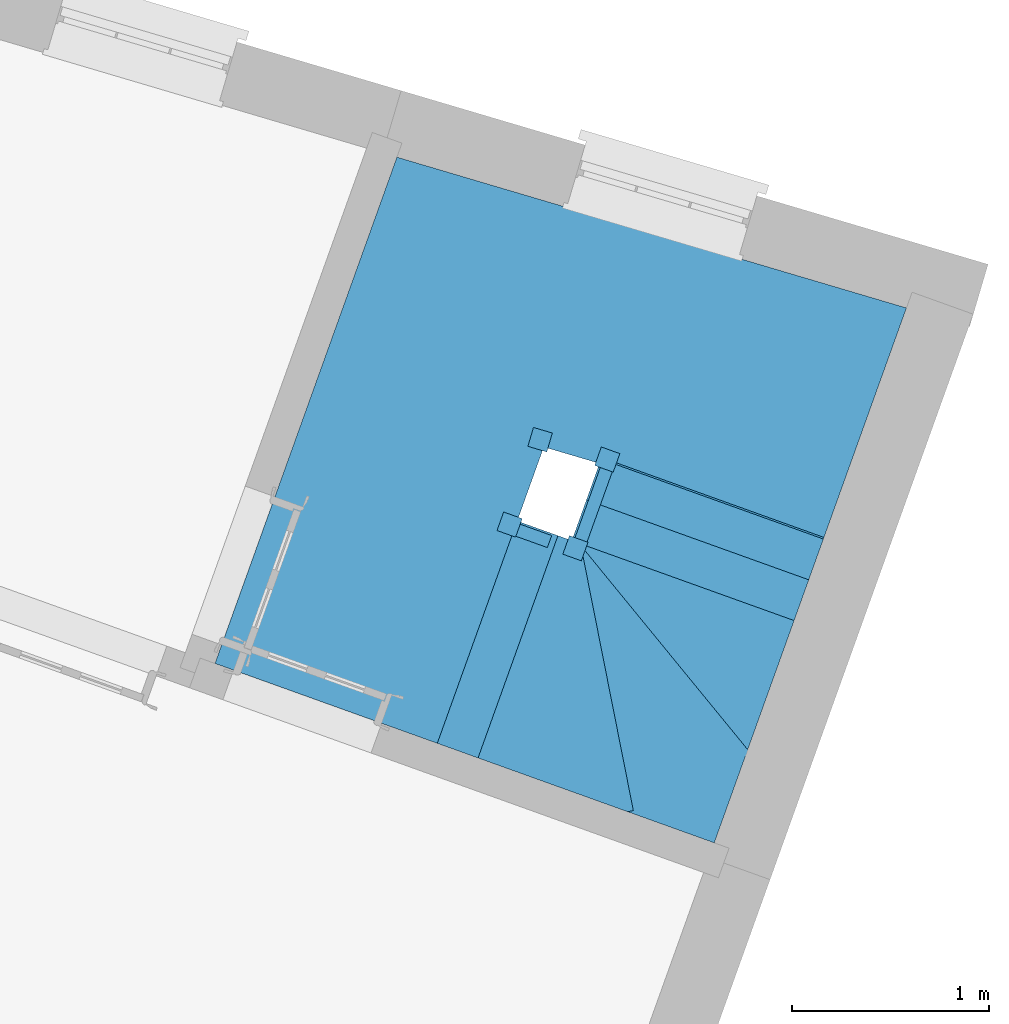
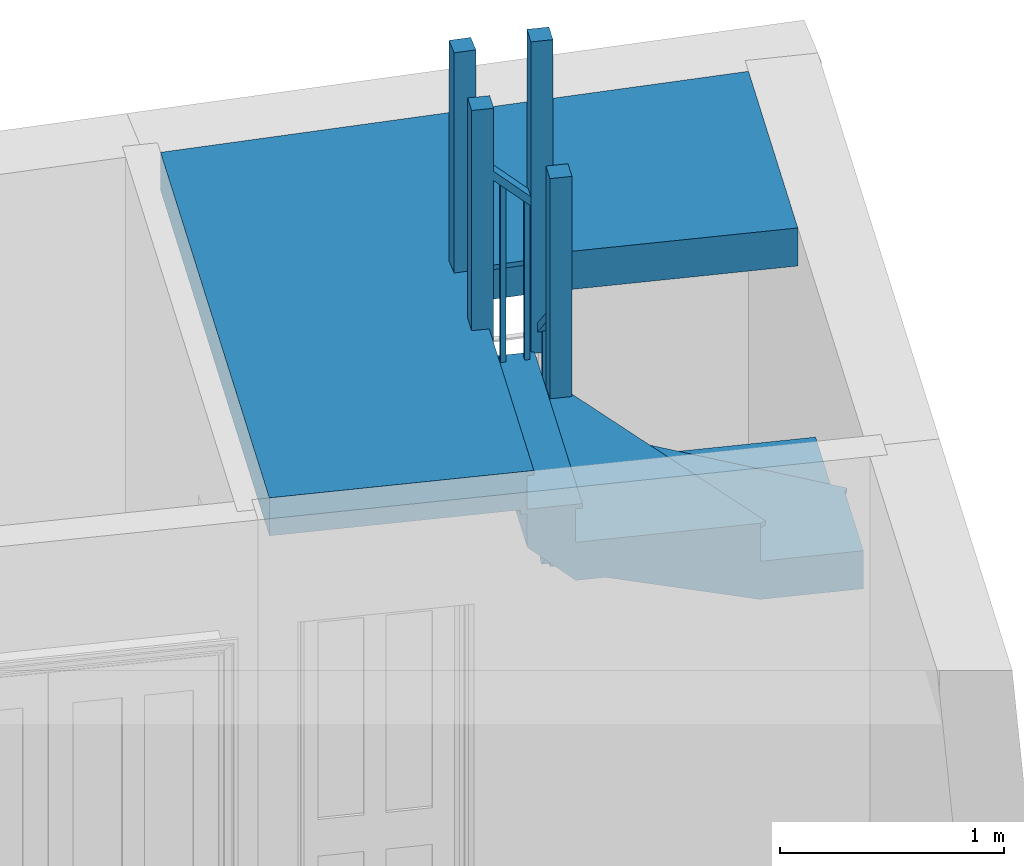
# One storey, part 4 of 4: 1 stair.
"""IFC4 building model written with IfcOpenShell, lengths in metres."""

from ifc_helpers import new_model, si_unit, frame, origin, origin_with_axes, place, context, subcontext, project, spatial, faceted_brep, element, save


model = new_model("IFC4")

# Units and contexts
model_context = context("Model", 3, world=origin_with_axes())
body_context = subcontext(model_context, "Body", "Model", "MODEL_VIEW")
ifc_project = project(units=[si_unit("PLANEANGLEUNIT", "RADIAN"), si_unit("MASSUNIT", "GRAM", prefix="KILO"), si_unit("FORCEUNIT", "NEWTON", prefix="KILO"), si_unit("LENGTHUNIT", "METRE"), si_unit("AREAUNIT", "SQUARE_METRE"), si_unit("VOLUMEUNIT", "CUBIC_METRE")], contexts=[model_context, model_context])

# Sites, building, storey
site_1_placement = place(None, origin_with_axes())
site_1 = spatial("IfcSite", under=ifc_project, at=site_1_placement, Name="Tamar")
site_2_placement = place(site_1_placement, origin_with_axes())
site_2 = spatial("IfcSite", under=site_1, at=site_2_placement, Name="Site plot-24", CompositionType="ELEMENT")
building_placement = place(None, origin_with_axes())
building = spatial("IfcBuilding", under=site_2, at=building_placement, Name="Building plot-24", CompositionType="ELEMENT")
storey_placement = place(None, frame((0.0, 0.0, 29.3), z_axis=(0.0, 0.0, 1.0), x_axis=(1.0, 0.0, 0.0)))
storey = spatial("IfcBuildingStorey", under=building, at=storey_placement, Name="plot-24 1", CompositionType="ELEMENT", Elevation=29.3)

# Stair
stair_placement = place(None, origin())
element("IfcStair", 1, at=stair_placement, inside=storey, Name="Stair", PredefinedType="NOTDEFINED", context=body_context, shape_type="Brep", body=[
    faceted_brep([(274.248224, 278.266553, 32.0), (273.147152, 278.662205, 32.0), (272.992165, 278.230887, 32.0), (274.093237, 277.835235, 32.0), (274.093237, 277.835235, 31.792308), (272.992165, 278.230887, 31.792308), (273.147152, 278.662205, 31.792308), (274.248224, 278.266553, 31.792308)], [[[0, 1, 2, 3]], [[4, 5, 6, 7]], [[7, 6, 1, 0]], [[6, 5, 2, 1]], [[5, 4, 3, 2]], [[4, 7, 0, 3]]]),
    faceted_brep([(274.12147, 277.82509, 31.975), (274.12147, 277.82509, 32.0), (274.093237, 277.835235, 31.975), (274.276456, 278.256408, 32.0), (274.276456, 278.256408, 31.975), (274.248224, 278.266553, 31.975), (274.093237, 277.835235, 32.0), (274.248224, 278.266553, 32.0)], [[[0, 1, 2]], [[3, 4, 5]], [[2, 1, 6]], [[3, 5, 7]], [[6, 1, 3, 7]], [[2, 6, 7, 5]], [[0, 2, 5, 4]], [[1, 0, 4, 3]]]),
    faceted_brep([(274.123383, 277.771272, 33.2), (274.157199, 277.865381, 33.2), (274.063091, 277.899197, 33.2), (274.029274, 277.805089, 33.2), (274.029274, 277.805089, 32.0), (274.063091, 277.899197, 32.0), (274.157199, 277.865381, 32.0), (274.123383, 277.771272, 32.0)], [[[0, 1, 2, 3]], [[4, 5, 6, 7]], [[7, 6, 1, 0]], [[6, 5, 2, 1]], [[5, 4, 3, 2]], [[4, 7, 0, 3]]]),
    faceted_brep([(274.093237, 277.835235, 32.0), (272.992165, 278.230887, 32.0), (272.596513, 277.129815, 32.0), (273.697585, 276.734163, 32.0), (273.697585, 276.734163, 31.792308), (272.596513, 277.129815, 31.792308), (272.992165, 278.230887, 31.792308), (274.093237, 277.835235, 31.792308)], [[[0, 1, 2, 3]], [[4, 5, 6, 7]], [[7, 6, 1, 0]], [[6, 5, 2, 1]], [[5, 4, 3, 2]], [[4, 7, 0, 3]]]),
    faceted_brep([(273.697585, 276.734163, 31.975), (273.725818, 276.724018, 31.975), (273.697585, 276.734163, 32.0), (274.12147, 277.82509, 31.975), (274.093237, 277.835235, 31.975), (274.093237, 277.835235, 32.0), (273.725818, 276.724018, 32.0), (274.12147, 277.82509, 32.0)], [[[0, 1, 2]], [[3, 4, 5]], [[1, 6, 2]], [[7, 3, 5]], [[2, 6, 7, 5]], [[0, 2, 5, 4]], [[1, 0, 4, 3]], [[6, 1, 3, 7]]]),
    faceted_brep([(274.123383, 277.771272, 32.0), (274.157199, 277.865381, 32.0), (274.063091, 277.899197, 32.0), (274.029274, 277.805089, 32.0), (274.029274, 277.805089, 31.5), (274.063091, 277.899197, 31.5), (274.157199, 277.865381, 31.5), (274.123383, 277.771272, 31.5)], [[[0, 1, 2, 3]], [[4, 5, 6, 7]], [[7, 6, 1, 0]], [[6, 5, 2, 1]], [[5, 4, 3, 2]], [[4, 7, 0, 3]]]),
    faceted_brep([(274.093237, 277.835235, 31.792308), (273.697585, 276.734163, 31.792308), (273.904624, 276.659767, 31.792308), (274.300276, 277.760839, 31.792308), (274.300276, 277.760839, 31.376923), (273.904624, 276.659767, 31.376923), (273.697585, 276.734163, 31.584615), (274.093237, 277.835235, 31.584615)], [[[0, 1, 2, 3]], [[4, 5, 6, 7]], [[7, 6, 1, 0]], [[1, 6, 5, 2]], [[5, 4, 3, 2]], [[3, 4, 7, 0]]]),
    faceted_brep([(273.904624, 276.659767, 31.767308), (273.932857, 276.649622, 31.767308), (273.904624, 276.659767, 31.792308), (273.669352, 276.744308, 31.767308), (273.697585, 276.734163, 31.767308), (273.697585, 276.734163, 31.792308), (273.932857, 276.649622, 31.792308), (273.669352, 276.744308, 31.792308), (274.338654, 277.778926, 31.792308), (274.300276, 277.760839, 31.792308), (274.300276, 277.760839, 31.767308), (274.338654, 277.778926, 31.767308), (274.075149, 277.873612, 31.792308), (274.093237, 277.835235, 31.792308), (274.093237, 277.835235, 31.767308), (274.075149, 277.873612, 31.767308)], [[[0, 1, 2]], [[3, 4, 5]], [[1, 6, 2]], [[7, 3, 5]], [[2, 6, 8, 9]], [[0, 2, 9, 10]], [[1, 0, 10, 11]], [[6, 1, 11, 8]], [[9, 8, 12, 13]], [[10, 9, 13, 14]], [[11, 10, 14, 15]], [[8, 11, 15, 12]], [[13, 12, 7, 5]], [[14, 13, 5, 4]], [[15, 14, 4, 3]], [[12, 15, 3, 7]]]),
    faceted_brep([(274.300276, 277.760839, 32.692308), (274.276749, 277.769293, 32.692308), (274.268295, 277.745766, 32.692308), (274.291822, 277.737312, 32.692308), (274.291822, 277.737312, 31.792308), (274.268295, 277.745766, 31.792308), (274.276749, 277.769293, 31.792308), (274.300276, 277.760839, 31.792308)], [[[0, 1, 2, 3]], [[4, 5, 6, 7]], [[7, 6, 1, 0]], [[6, 5, 2, 1]], [[5, 4, 3, 2]], [[4, 7, 0, 3]]]),
    faceted_brep([(274.196756, 277.798037, 32.796154), (274.173229, 277.806491, 32.796154), (274.164775, 277.782964, 32.796154), (274.188302, 277.77451, 32.796154), (274.188302, 277.77451, 31.792308), (274.164775, 277.782964, 31.792308), (274.173229, 277.806491, 31.792308), (274.196756, 277.798037, 31.792308)], [[[0, 1, 2, 3]], [[4, 5, 6, 7]], [[7, 6, 1, 0]], [[6, 5, 2, 1]], [[5, 4, 3, 2]], [[4, 7, 0, 3]]]),
    faceted_brep([(274.285059, 277.71849, 32.642308), (274.307039, 277.779661, 32.642308), (274.307039, 277.779661, 32.692308), (274.285059, 277.71849, 32.692308), (274.1, 277.854057, 32.85), (274.07802, 277.792886, 32.85), (274.07802, 277.792886, 32.9), (274.1, 277.854057, 32.9)], [[[0, 1, 2, 3]], [[4, 5, 6, 7]], [[0, 5, 4, 1]], [[3, 2, 7, 6]], [[0, 3, 6, 5]], [[2, 1, 4, 7]]]),
    faceted_brep([(274.300276, 277.760839, 31.584615), (273.904624, 276.659767, 31.584615), (274.031813, 276.614063, 31.584615), (274.427465, 277.715135, 31.584615), (274.427465, 277.715135, 31.376923), (274.031813, 276.614063, 31.376923), (273.904624, 276.659767, 31.376923), (274.300276, 277.760839, 31.376923)], [[[0, 1, 2, 3]], [[4, 5, 6, 7]], [[7, 6, 1, 0]], [[6, 5, 2, 1]], [[5, 4, 3, 2]], [[4, 7, 0, 3]]]),
    faceted_brep([(274.43761, 277.743368, 31.559615), (274.43761, 277.743368, 31.584615), (274.427465, 277.715135, 31.559615), (274.310421, 277.789071, 31.584615), (274.310421, 277.789071, 31.559615), (274.300276, 277.760839, 31.559615), (274.427465, 277.715135, 31.584615), (274.300276, 277.760839, 31.584615)], [[[0, 1, 2]], [[3, 4, 5]], [[2, 1, 6]], [[3, 5, 7]], [[6, 1, 3, 7]], [[2, 6, 7, 5]], [[0, 2, 5, 4]], [[1, 0, 4, 3]]]),
    faceted_brep([(274.491428, 277.745282, 32.784615), (274.397319, 277.779098, 32.784615), (274.363503, 277.684989, 32.784615), (274.457612, 277.651173, 32.784615), (274.457612, 277.651173, 31.584615), (274.363503, 277.684989, 31.584615), (274.397319, 277.779098, 31.584615), (274.491428, 277.745282, 31.584615)], [[[0, 1, 2, 3]], [[4, 5, 6, 7]], [[7, 6, 1, 0]], [[6, 5, 2, 1]], [[5, 4, 3, 2]], [[4, 7, 0, 3]]]),
    faceted_brep([(274.031813, 276.614063, 31.584615), (274.692457, 276.376672, 31.584615), (274.427465, 277.715135, 31.584615), (274.427465, 277.715135, 31.169231), (274.692457, 276.376672, 31.169231), (274.031813, 276.614063, 31.376923)], [[[0, 1, 2]], [[3, 4, 5]], [[0, 5, 4, 1]], [[4, 3, 2, 1]], [[2, 3, 5, 0]]]),
    faceted_brep([(274.721885, 276.382499, 31.559615), (274.721885, 276.382499, 31.584615), (274.692457, 276.376672, 31.559615), (274.456894, 277.720962, 31.584615), (274.456894, 277.720962, 31.559615), (274.427465, 277.715135, 31.559615), (274.692457, 276.376672, 31.584615), (274.427465, 277.715135, 31.584615)], [[[0, 1, 2]], [[3, 4, 5]], [[2, 1, 6]], [[3, 5, 7]], [[6, 1, 3, 7]], [[2, 6, 7, 5]], [[0, 2, 5, 4]], [[1, 0, 4, 3]]]),
    faceted_brep([(274.692457, 276.376672, 31.376923), (275.132885, 276.218411, 31.376923), (275.291146, 276.65884, 31.376923), (274.427465, 277.715135, 31.376923), (274.427465, 277.715135, 30.961538), (275.291146, 276.65884, 30.961538), (275.132885, 276.218411, 31.169231), (274.692457, 276.376672, 31.169231)], [[[0, 1, 2, 3]], [[4, 5, 6, 7]], [[7, 6, 1, 0]], [[1, 6, 5, 2]], [[5, 4, 3, 2]], [[3, 4, 7, 0]]]),
    faceted_brep([(275.314371, 276.67783, 31.351923), (275.314371, 276.67783, 31.376923), (275.291146, 276.65884, 31.351923), (274.45069, 277.734125, 31.376923), (274.45069, 277.734125, 31.351923), (274.427465, 277.715135, 31.351923), (275.291146, 276.65884, 31.376923), (274.427465, 277.715135, 31.376923)], [[[0, 1, 2]], [[3, 4, 5]], [[2, 1, 6]], [[3, 5, 7]], [[6, 1, 3, 7]], [[2, 6, 7, 5]], [[0, 2, 5, 4]], [[1, 0, 4, 3]]]),
    faceted_brep([(275.291146, 276.65884, 31.169231), (275.528537, 277.319483, 31.169231), (274.427465, 277.715135, 31.169231), (274.427465, 277.715135, 30.753846), (275.528537, 277.319483, 30.753846), (275.291146, 276.65884, 30.961538)], [[[0, 1, 2]], [[3, 4, 5]], [[0, 5, 4, 1]], [[4, 3, 2, 1]], [[2, 3, 5, 0]]]),
    faceted_brep([(275.528537, 277.319483, 31.144231), (275.538682, 277.347716, 31.144231), (275.528537, 277.319483, 31.169231), (274.43761, 277.743368, 31.144231), (274.427465, 277.715135, 31.144231), (274.427465, 277.715135, 31.169231), (275.538682, 277.347716, 31.169231), (274.43761, 277.743368, 31.169231)], [[[0, 1, 2]], [[3, 4, 5]], [[1, 6, 2]], [[7, 3, 5]], [[2, 6, 7, 5]], [[0, 2, 5, 4]], [[1, 0, 4, 3]], [[6, 1, 3, 7]]]),
    faceted_brep([(274.491428, 277.745282, 31.584615), (274.397319, 277.779098, 31.584615), (274.363503, 277.684989, 31.584615), (274.457612, 277.651173, 31.584615), (274.457612, 277.651173, 30.669231), (274.363503, 277.684989, 30.669231), (274.397319, 277.779098, 30.669231), (274.491428, 277.745282, 30.669231)], [[[0, 1, 2, 3]], [[4, 5, 6, 7]], [[7, 6, 1, 0]], [[6, 5, 2, 1]], [[5, 4, 3, 2]], [[4, 7, 0, 3]]]),
    faceted_brep([(274.427465, 277.715135, 30.961538), (275.528537, 277.319483, 30.961538), (275.602933, 277.526523, 30.961538), (274.501861, 277.922175, 30.961538), (274.501861, 277.922175, 30.546154), (275.602933, 277.526523, 30.546154), (275.528537, 277.319483, 30.753846), (274.427465, 277.715135, 30.753846)], [[[0, 1, 2, 3]], [[4, 5, 6, 7]], [[7, 6, 1, 0]], [[1, 6, 5, 2]], [[5, 4, 3, 2]], [[3, 4, 7, 0]]]),
    faceted_brep([(275.602933, 277.526523, 30.936538), (275.613078, 277.554755, 30.936538), (275.602933, 277.526523, 30.961538), (275.518392, 277.291251, 30.936538), (275.528537, 277.319483, 30.936538), (275.528537, 277.319483, 30.961538), (275.613078, 277.554755, 30.961538), (275.518392, 277.291251, 30.961538), (274.483774, 277.960552, 30.961538), (274.501861, 277.922175, 30.961538), (274.501861, 277.922175, 30.936538), (274.483774, 277.960552, 30.936538), (274.389088, 277.697048, 30.961538), (274.427465, 277.715135, 30.961538), (274.427465, 277.715135, 30.936538), (274.389088, 277.697048, 30.936538)], [[[0, 1, 2]], [[3, 4, 5]], [[1, 6, 2]], [[7, 3, 5]], [[2, 6, 8, 9]], [[0, 2, 9, 10]], [[1, 0, 10, 11]], [[6, 1, 11, 8]], [[9, 8, 12, 13]], [[10, 9, 13, 14]], [[11, 10, 14, 15]], [[8, 11, 15, 12]], [[13, 12, 7, 5]], [[14, 13, 5, 4]], [[15, 14, 4, 3]], [[12, 15, 3, 7]]]),
    faceted_brep([(274.501861, 277.922175, 31.861538), (274.493407, 277.898647, 31.861538), (274.516935, 277.890193, 31.861538), (274.525389, 277.91372, 31.861538), (274.525389, 277.91372, 30.961538), (274.516935, 277.890193, 30.961538), (274.493407, 277.898647, 30.961538), (274.501861, 277.922175, 30.961538)], [[[0, 1, 2, 3]], [[4, 5, 6, 7]], [[7, 6, 1, 0]], [[6, 5, 2, 1]], [[5, 4, 3, 2]], [[4, 7, 0, 3]]]),
    faceted_brep([(274.464663, 277.818655, 31.965385), (274.456209, 277.795128, 31.965385), (274.479736, 277.786674, 31.965385), (274.488191, 277.810201, 31.965385), (274.488191, 277.810201, 30.961538), (274.479736, 277.786674, 30.961538), (274.456209, 277.795128, 30.961538), (274.464663, 277.818655, 30.961538)], [[[0, 1, 2, 3]], [[4, 5, 6, 7]], [[7, 6, 1, 0]], [[6, 5, 2, 1]], [[5, 4, 3, 2]], [[4, 7, 0, 3]]]),
    faceted_brep([(274.54421, 277.906957, 31.811538), (274.48304, 277.928938, 31.811538), (274.48304, 277.928938, 31.861538), (274.54421, 277.906957, 31.861538), (274.408644, 277.721899, 32.019231), (274.469814, 277.699918, 32.019231), (274.469814, 277.699918, 32.069231), (274.408644, 277.721899, 32.069231)], [[[0, 1, 2, 3]], [[4, 5, 6, 7]], [[0, 5, 4, 1]], [[3, 2, 7, 6]], [[0, 3, 6, 5]], [[2, 1, 4, 7]]]),
    faceted_brep([(274.501861, 277.922175, 30.753846), (275.602933, 277.526523, 30.753846), (275.67733, 277.733562, 30.753846), (274.576258, 278.129214, 30.753846), (274.576258, 278.129214, 30.338462), (275.67733, 277.733562, 30.338462), (275.602933, 277.526523, 30.546154), (274.501861, 277.922175, 30.546154)], [[[0, 1, 2, 3]], [[4, 5, 6, 7]], [[7, 6, 1, 0]], [[1, 6, 5, 2]], [[5, 4, 3, 2]], [[3, 4, 7, 0]]]),
    faceted_brep([(275.687474, 277.761794, 30.728846), (275.687474, 277.761794, 30.753846), (275.67733, 277.733562, 30.728846), (275.592789, 277.49829, 30.753846), (275.592789, 277.49829, 30.728846), (275.602933, 277.526523, 30.728846), (275.67733, 277.733562, 30.753846), (275.602933, 277.526523, 30.753846), (274.55817, 278.167591, 30.753846), (274.576258, 278.129214, 30.753846), (274.576258, 278.129214, 30.728846), (274.55817, 278.167591, 30.728846), (274.463484, 277.904087, 30.753846), (274.501861, 277.922175, 30.753846), (274.501861, 277.922175, 30.728846), (274.463484, 277.904087, 30.728846)], [[[0, 1, 2]], [[3, 4, 5]], [[2, 1, 6]], [[3, 5, 7]], [[6, 1, 8, 9]], [[2, 6, 9, 10]], [[0, 2, 10, 11]], [[1, 0, 11, 8]], [[9, 8, 12, 13]], [[10, 9, 13, 14]], [[11, 10, 14, 15]], [[8, 11, 15, 12]], [[13, 12, 3, 7]], [[14, 13, 7, 5]], [[15, 14, 5, 4]], [[12, 15, 4, 3]]]),
    faceted_brep([(274.576258, 278.129214, 31.653846), (274.567803, 278.105687, 31.653846), (274.591331, 278.097232, 31.653846), (274.599785, 278.12076, 31.653846), (274.599785, 278.12076, 30.753846), (274.591331, 278.097232, 30.753846), (274.567803, 278.105687, 30.753846), (274.576258, 278.129214, 30.753846)], [[[0, 1, 2, 3]], [[4, 5, 6, 7]], [[7, 6, 1, 0]], [[6, 5, 2, 1]], [[5, 4, 3, 2]], [[4, 7, 0, 3]]]),
    faceted_brep([(274.53906, 278.025694, 31.757692), (274.530605, 278.002167, 31.757692), (274.554133, 277.993713, 31.757692), (274.562587, 278.01724, 31.757692), (274.562587, 278.01724, 30.753846), (274.554133, 277.993713, 30.753846), (274.530605, 278.002167, 30.753846), (274.53906, 278.025694, 30.753846)], [[[0, 1, 2, 3]], [[4, 5, 6, 7]], [[7, 6, 1, 0]], [[6, 5, 2, 1]], [[5, 4, 3, 2]], [[4, 7, 0, 3]]]),
    faceted_brep([(274.618606, 278.113996, 31.603846), (274.557436, 278.135977, 31.603846), (274.557436, 278.135977, 31.653846), (274.618606, 278.113996, 31.653846), (274.48304, 277.928938, 31.811538), (274.54421, 277.906957, 31.811538), (274.54421, 277.906957, 31.861538), (274.48304, 277.928938, 31.861538)], [[[0, 1, 2, 3]], [[4, 5, 6, 7]], [[0, 5, 4, 1]], [[3, 2, 7, 6]], [[0, 3, 6, 5]], [[2, 1, 4, 7]]]),
    faceted_brep([(274.576258, 278.129214, 30.546154), (275.67733, 277.733562, 30.546154), (275.69041, 277.769963, 30.546154), (274.589338, 278.165615, 30.546154), (274.589338, 278.165615, 30.338462), (275.69041, 277.769963, 30.338462), (275.67733, 277.733562, 30.338462), (274.576258, 278.129214, 30.338462)], [[[0, 1, 2, 3]], [[4, 5, 6, 7]], [[7, 6, 1, 0]], [[6, 5, 2, 1]], [[5, 4, 3, 2]], [[4, 7, 0, 3]]]),
    faceted_brep([(274.589338, 278.165615, 30.521154), (274.561105, 278.175759, 30.521154), (274.589338, 278.165615, 30.546154), (274.548025, 278.139359, 30.521154), (274.576258, 278.129214, 30.521154), (274.576258, 278.129214, 30.546154), (274.561105, 278.175759, 30.546154), (274.548025, 278.139359, 30.546154)], [[[0, 1, 2]], [[3, 4, 5]], [[1, 6, 2]], [[7, 3, 5]], [[2, 6, 7, 5]], [[0, 2, 5, 4]], [[1, 0, 4, 3]], [[6, 1, 3, 7]]]),
    faceted_brep([(274.559191, 278.229577, 33.2), (274.525375, 278.135468, 33.2), (274.619484, 278.101652, 33.2), (274.6533, 278.195761, 33.2), (274.6533, 278.195761, 32.0), (274.619484, 278.101652, 32.0), (274.525375, 278.135468, 32.0), (274.559191, 278.229577, 32.0)], [[[0, 1, 2, 3]], [[4, 5, 6, 7]], [[7, 6, 1, 0]], [[6, 5, 2, 1]], [[5, 4, 3, 2]], [[4, 7, 0, 3]]]),
    faceted_brep([(274.589338, 278.165615, 32.0), (275.69041, 277.769963, 32.0), (276.109394, 278.935967, 32.0), (274.92132, 279.287527, 32.0), (274.92132, 279.287527, 31.792308), (276.109394, 278.935967, 31.792308), (275.69041, 277.769963, 31.792308), (274.589338, 278.165615, 31.792308)], [[[0, 1, 2, 3]], [[4, 5, 6, 7]], [[7, 6, 1, 0]], [[6, 5, 2, 1]], [[5, 4, 3, 2]], [[4, 7, 0, 3]]]),
    faceted_brep([(274.92132, 279.287527, 31.975), (274.892553, 279.296039, 31.975), (274.92132, 279.287527, 32.0), (274.560571, 278.174127, 31.975), (274.589338, 278.165615, 31.975), (274.589338, 278.165615, 32.0), (274.892553, 279.296039, 32.0), (274.560571, 278.174127, 32.0)], [[[0, 1, 2]], [[3, 4, 5]], [[1, 6, 2]], [[7, 3, 5]], [[2, 6, 7, 5]], [[0, 2, 5, 4]], [[1, 0, 4, 3]], [[6, 1, 3, 7]]]),
    faceted_brep([(274.559191, 278.229577, 32.0), (274.525375, 278.135468, 32.0), (274.619484, 278.101652, 32.0), (274.6533, 278.195761, 32.0), (274.6533, 278.195761, 31.5), (274.619484, 278.101652, 31.5), (274.525375, 278.135468, 31.5), (274.559191, 278.229577, 31.5)], [[[0, 1, 2, 3]], [[4, 5, 6, 7]], [[7, 6, 1, 0]], [[6, 5, 2, 1]], [[5, 4, 3, 2]], [[4, 7, 0, 3]]]),
    faceted_brep([(274.589338, 278.165615, 32.0), (274.92132, 279.287527, 32.0), (274.580206, 279.388465, 32.0), (274.248224, 278.266553, 32.0), (274.248224, 278.266553, 31.792308), (274.580206, 279.388465, 31.792308), (274.92132, 279.287527, 31.792308), (274.589338, 278.165615, 31.792308)], [[[0, 1, 2, 3]], [[4, 5, 6, 7]], [[7, 6, 1, 0]], [[6, 5, 2, 1]], [[5, 4, 3, 2]], [[4, 7, 0, 3]]]),
    faceted_brep([(274.239711, 278.237786, 31.975), (274.239711, 278.237786, 32.0), (274.248224, 278.266553, 31.975), (274.580825, 278.136848, 32.0), (274.580825, 278.136848, 31.975), (274.589338, 278.165615, 31.975), (274.248224, 278.266553, 32.0), (274.589338, 278.165615, 32.0)], [[[0, 1, 2]], [[3, 4, 5]], [[2, 1, 6]], [[3, 5, 7]], [[6, 1, 3, 7]], [[2, 6, 7, 5]], [[0, 2, 5, 4]], [[1, 0, 4, 3]]]),
    faceted_brep([(274.186092, 278.232795, 33.2), (274.281982, 278.20442, 33.2), (274.310356, 278.30031, 33.2), (274.214466, 278.328685, 33.2), (274.214466, 278.328685, 32.0), (274.310356, 278.30031, 32.0), (274.281982, 278.20442, 32.0), (274.186092, 278.232795, 32.0)], [[[0, 1, 2, 3]], [[4, 5, 6, 7]], [[7, 6, 1, 0]], [[6, 5, 2, 1]], [[5, 4, 3, 2]], [[4, 7, 0, 3]]]),
    faceted_brep([(274.248224, 278.266553, 32.0), (274.580206, 279.388465, 32.0), (273.520771, 279.70196, 32.0), (273.147152, 278.662205, 32.0), (273.147152, 278.662205, 31.792308), (273.520771, 279.70196, 31.792308), (274.580206, 279.388465, 31.792308), (274.248224, 278.266553, 31.792308)], [[[0, 1, 2, 3]], [[4, 5, 6, 7]], [[7, 6, 1, 0]], [[6, 5, 2, 1]], [[5, 4, 3, 2]], [[4, 7, 0, 3]]]),
    faceted_brep([(273.137007, 278.633972, 31.975), (273.137007, 278.633972, 32.0), (273.147152, 278.662205, 31.975), (274.238079, 278.23832, 32.0), (274.238079, 278.23832, 31.975), (274.248224, 278.266553, 31.975), (273.147152, 278.662205, 32.0), (274.248224, 278.266553, 32.0)], [[[0, 1, 2]], [[3, 4, 5]], [[2, 1, 6]], [[3, 5, 7]], [[6, 1, 3, 7]], [[2, 6, 7, 5]], [[0, 2, 5, 4]], [[1, 0, 4, 3]]]),
    faceted_brep([(274.186092, 278.232795, 32.0), (274.281982, 278.20442, 32.0), (274.310356, 278.30031, 32.0), (274.214466, 278.328685, 32.0), (274.214466, 278.328685, 31.5), (274.310356, 278.30031, 31.5), (274.281982, 278.20442, 31.5), (274.186092, 278.232795, 31.5)], [[[0, 1, 2, 3]], [[4, 5, 6, 7]], [[7, 6, 1, 0]], [[6, 5, 2, 1]], [[5, 4, 3, 2]], [[4, 7, 0, 3]]]),
])

save(model, "model.ifc")
